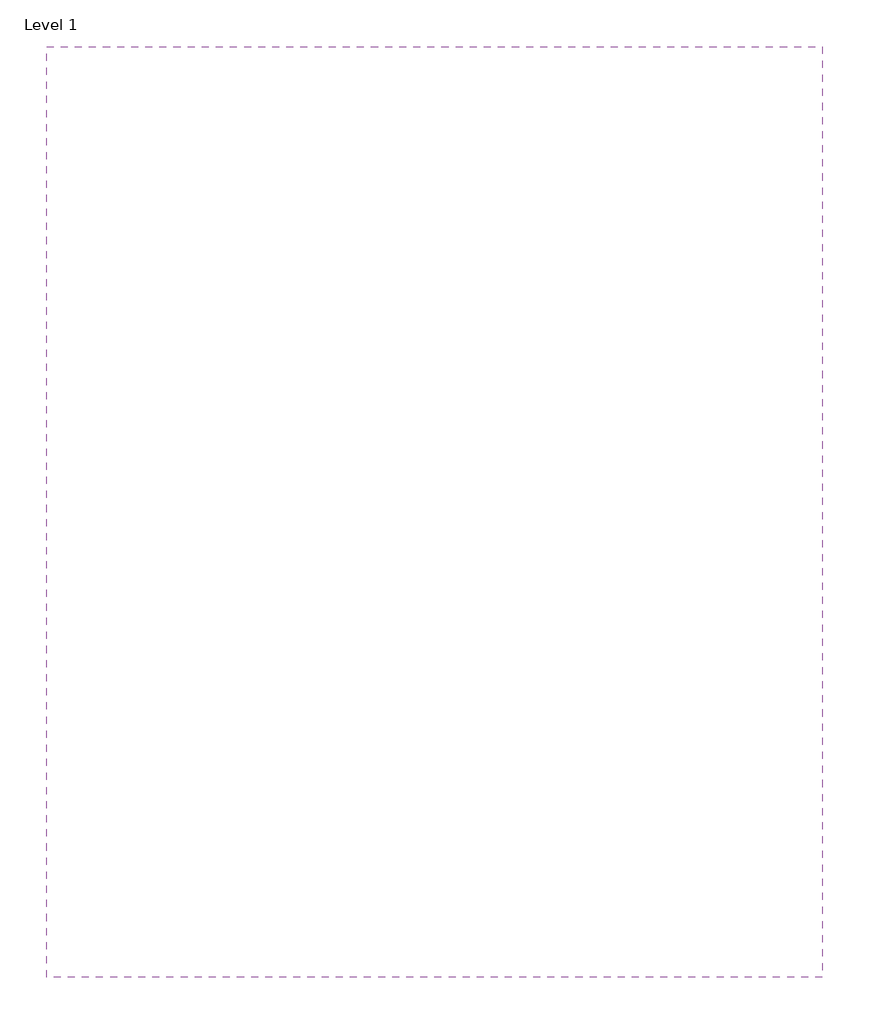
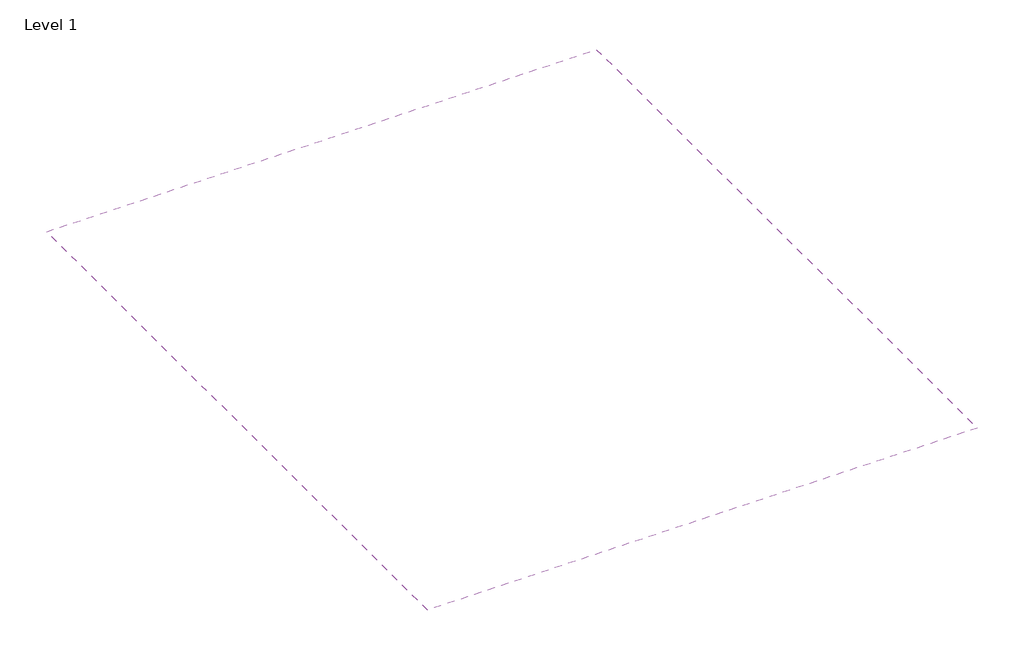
# One storey, incomplete: 1 covering.
"""IFC4 building model written with IfcOpenShell, lengths in millimetres."""

from ifc_helpers import new_model, si_unit, frame, origin, place, context, project, spatial, polyline, outline, extrude, element, save

model = new_model("IFC4")

# Units and contexts
model_context = context("Model", 3, world=origin())
ifc_project = project(units=[si_unit("LENGTHUNIT", "METRE", prefix="MILLI")], contexts=[model_context])

# Site, building, storey
site = spatial("IfcSite", under=ifc_project)
building = spatial("IfcBuilding", under=site)
storey = spatial("IfcBuildingStorey", under=building, Name="Level 1", Elevation=0.0)

# Covering
placement = place(None, origin())
element("IfcCovering", 1, ObjectType="Plain", at=placement, inside=storey, context=model_context, shape_type="SweptSolid", body=[
    extrude(outline(polyline([(8895.3814471, 12562.7852442), (8895.3814471, 562.7852442), (-1104.6185529, 562.7852442), (-1104.6185529, 12562.7852442), (8895.3814471, 12562.7852442)])), frame((0.0, 0.0, 2600.0), z_axis=(0.0, 0.0, 1.0), x_axis=(1.0, 0.0, 0.0)), (0.0, 0.0, 1.0), 57.0),
])

save(model, "model.ifc")
